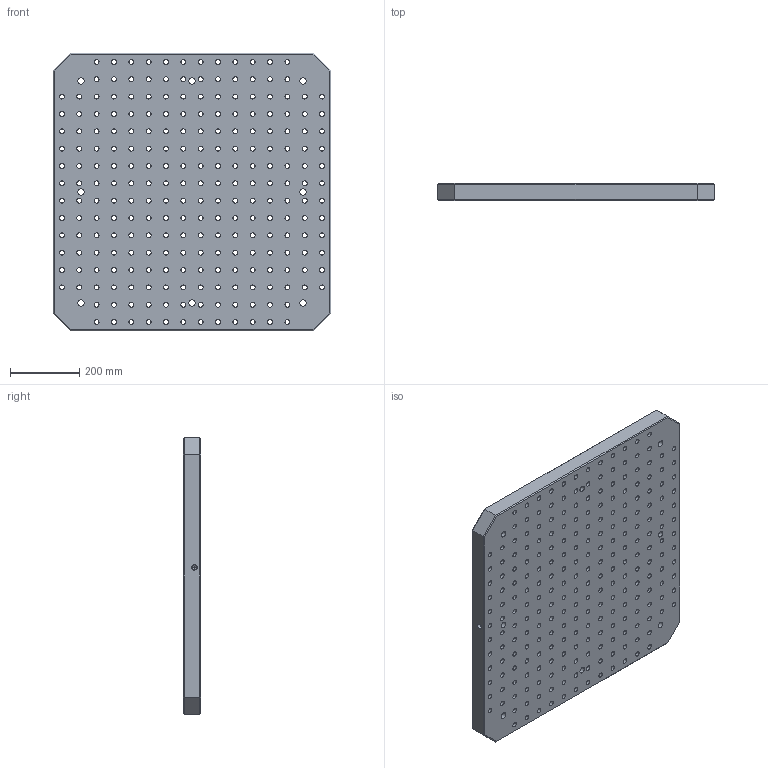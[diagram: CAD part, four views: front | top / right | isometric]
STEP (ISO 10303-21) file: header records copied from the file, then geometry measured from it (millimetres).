
FILE_DESCRIPTION((''),'2;1');
FILE_NAME('FG_WH_BASPL_SQG16NP004','2026-05-18T16:15:16',('Admin'),(''),'CREO PARAMETRIC BY PTC INC, 2025010','CREO PARAMETRIC BY PTC INC, 2025010','');
FILE_SCHEMA(('CONFIG_CONTROL_DESIGN'));
Length unit declared in the file: millimetre
Products named in the file (1): FG_WH_BASPL_SQG16NP004
Bounding box: 800 x 50 x 800 mm (x, y, z)
Volume: 29542905.7 mm3; surface area: 2334615 mm2
Topology: 1 solids, 244 shells, 2007 faces, 5006 edges, 3489 vertices
Faces by surface type: cylinder 1484, plane 517, cone 6
Entity records: 62794 total; most frequent: DIRECTION 12470, CARTESIAN_POINT 10497, ORIENTED_EDGE 9028, AXIS2_PLACEMENT_3D 5462, EDGE_CURVE 5000, VERTEX_POINT 3489, CIRCLE 3454, EDGE_LOOP 2997
